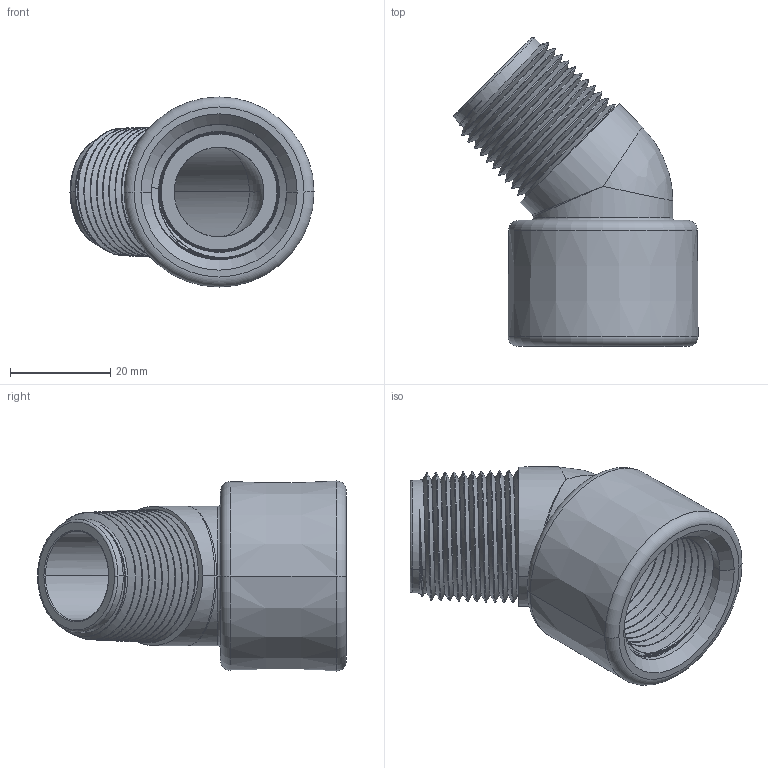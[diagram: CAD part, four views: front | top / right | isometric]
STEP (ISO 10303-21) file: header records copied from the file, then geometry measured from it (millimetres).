
FILE_DESCRIPTION(/* description */ ('Alibre Inc.'),/* implementation_level */ '2;1');
FILE_NAME(/* name */ 'export0',/* time_stamp */ '2019-10-04T12:32:24-04:00',/* author */ (''),/* organization */ (''),/* preprocessor_version */ 'ST-DEVELOPER v17',/* originating_system */ 'Alibre',/* authorisation */ '');
FILE_SCHEMA (('CONFIG_CONTROL_DESIGN'));
Length unit declared in the file: inch
Products named in the file (1): 200-N050020-1000C
Bounding box: 48.78 x 61.74 x 37.98 mm (x, y, z)
Volume: 26838.1 mm3; surface area: 13736.1 mm2
Topology: 1 solids, 1 shells, 98 faces, 258 edges, 158 vertices
Faces by surface type: cone 45, bspline 30, torus 10, cylinder 8, plane 5
Entity records: 37732 total; most frequent: CARTESIAN_POINT 35900, ORIENTED_EDGE 502, EDGE_CURVE 251, DIRECTION 163, B_SPLINE_CURVE_WITH_KNOTS 160, VERTEX_POINT 158, EDGE_LOOP 103, FACE_BOUND 103
